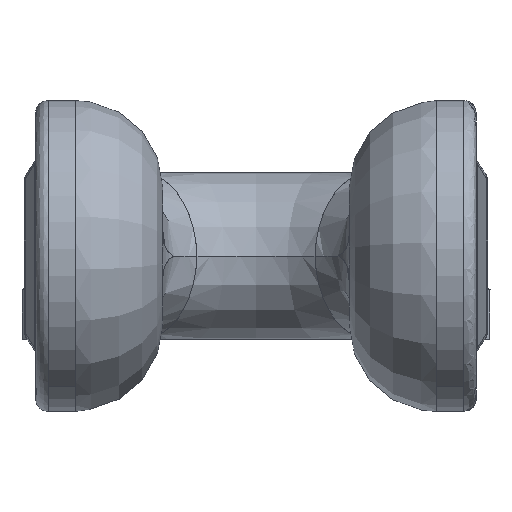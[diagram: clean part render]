
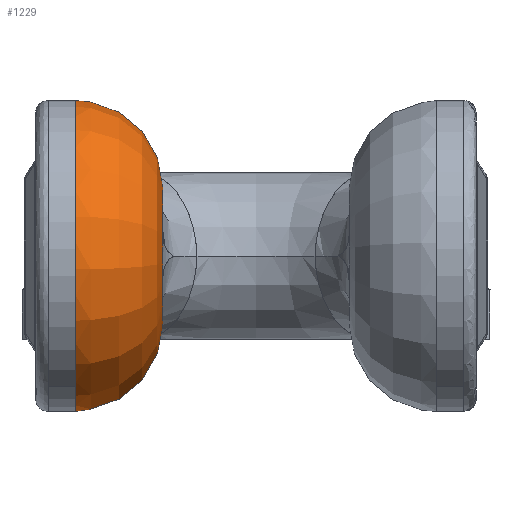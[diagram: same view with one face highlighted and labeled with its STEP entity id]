
A CAD part, front view. The second image highlights one B-rep face of the part: STEP entity #1229.
In plain terms, the highlighted face is a revolution surface.
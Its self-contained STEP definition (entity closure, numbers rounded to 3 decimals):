
#1182=CARTESIAN_POINT('Control Point',(-37.5,14.874,-23.13)) ;
#1183=CARTESIAN_POINT('Control Point',(-37.5,17.848,-27.754)) ;
#1184=CARTESIAN_POINT('Control Point',(-38.579,20.822,-32.378)) ;
#1185=CARTESIAN_POINT('Control Point',(-40.74,23.642,-36.765)) ;
#1186=CARTESIAN_POINT('Control Point',(-46.988,28.673,-44.588)) ;
#1187=CARTESIAN_POINT('Control Point',(-56.29,32.053,-49.844)) ;
#1188=CARTESIAN_POINT('Control Point',(-61.504,33.221,-51.661)) ;
#1189=CARTESIAN_POINT('Control Point',(-67.002,33.805,-52.568)) ;
#1190=CARTESIAN_POINT('Control Point',(-72.5,33.805,-52.568)) ;
#1191=CARTESIAN_POINT('Axis1P Location',(-72.5,0.,0.)) ;
#1195=CARTESIAN_POINT('Axis2P3D Location',(-72.5,0.,0.)) ;
#1199=CARTESIAN_POINT('Vertex',(-72.5,33.805,-52.568)) ;
#1201=CARTESIAN_POINT('Vertex',(-72.5,33.805,52.568)) ;
#1204=CARTESIAN_POINT('Axis2P3D Location',(-72.5,14.874,23.13)) ;
#1208=CARTESIAN_POINT('Vertex',(-37.5,14.874,23.13)) ;
#1211=CARTESIAN_POINT('Axis2P3D Location',(-37.5,0.,0.)) ;
#1215=CARTESIAN_POINT('Vertex',(-37.5,14.874,-23.13)) ;
#1218=CARTESIAN_POINT('Axis2P3D Location',(-72.5,14.874,-23.13)) ;
#1192=DIRECTION('Axis1P Direction',(-1.,0.,0.)) ;
#1196=DIRECTION('Axis2P3D Direction',(-1.,0.,0.)) ;
#1205=DIRECTION('Axis2P3D Direction',(-0.,-0.841,0.541)) ;
#1212=DIRECTION('Axis2P3D Direction',(-1.,0.,0.)) ;
#1219=DIRECTION('Axis2P3D Direction',(-0.,0.841,0.541)) ;
#1197=AXIS2_PLACEMENT_3D('Circle Axis2P3D',#1195,#1196,$) ;
#1206=AXIS2_PLACEMENT_3D('Circle Axis2P3D',#1204,#1205,$) ;
#1213=AXIS2_PLACEMENT_3D('Circle Axis2P3D',#1211,#1212,$) ;
#1220=AXIS2_PLACEMENT_3D('Circle Axis2P3D',#1218,#1219,$) ;
#1224=ORIENTED_EDGE('',*,*,#1203,.T.) ;
#1225=ORIENTED_EDGE('',*,*,#1210,.T.) ;
#1226=ORIENTED_EDGE('',*,*,#1217,.T.) ;
#1227=ORIENTED_EDGE('',*,*,#1222,.T.) ;
#1229=ADVANCED_FACE('PartBody',(#1228),#1194,.F.) ;
#1193=AXIS1_PLACEMENT('Revolution Surface Axis1P',#1191,#1192) ;
#1181=B_SPLINE_CURVE_WITH_KNOTS('',5,(#1182,#1183,#1184,#1185,#1186,#1187,#1188,#1189,#1190),.UNSPECIFIED.,.F.,.U.,(6,3,6),(0.,27.489,54.978),.UNSPECIFIED.) ;
#1198=CIRCLE('generated circle',#1197,62.5) ;
#1207=CIRCLE('generated circle',#1206,35.) ;
#1214=CIRCLE('generated circle',#1213,27.5) ;
#1221=CIRCLE('generated circle',#1220,35.) ;
#1203=EDGE_CURVE('',#1200,#1202,#1198,.T.) ;
#1210=EDGE_CURVE('',#1202,#1209,#1207,.F.) ;
#1217=EDGE_CURVE('',#1209,#1216,#1214,.F.) ;
#1222=EDGE_CURVE('',#1216,#1200,#1221,.T.) ;
#1223=EDGE_LOOP('',(#1224,#1225,#1226,#1227)) ;
#1228=FACE_OUTER_BOUND('',#1223,.T.) ;
#1194=SURFACE_OF_REVOLUTION('Surface of Revolution',#1181,#1193) ;
#1200=VERTEX_POINT('',#1199) ;
#1202=VERTEX_POINT('',#1201) ;
#1209=VERTEX_POINT('',#1208) ;
#1216=VERTEX_POINT('',#1215) ;
